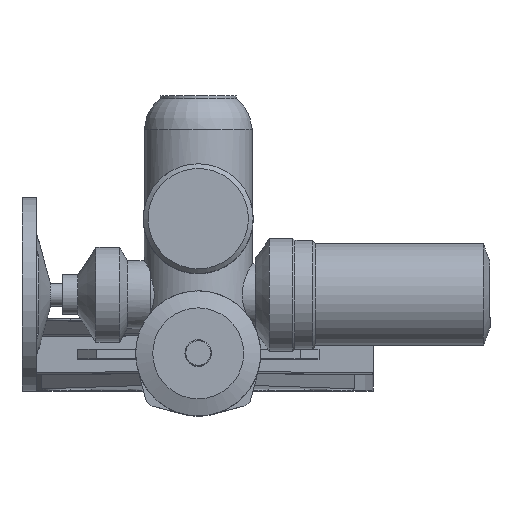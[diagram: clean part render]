
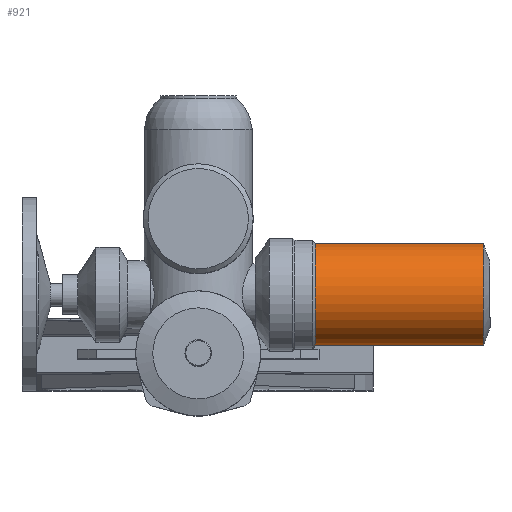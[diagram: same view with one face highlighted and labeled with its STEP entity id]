
A CAD part, top view. The second image highlights one B-rep face of the part: STEP entity #921.
In plain terms, the highlighted cylindrical face has radius 54 mm (diameter 108 mm), a full revolution.
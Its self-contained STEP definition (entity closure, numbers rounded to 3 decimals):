
#921=ADVANCED_FACE('',(#3311,#3313),#3315,.T.);
#3311=FACE_OUTER_BOUND('',#3312,.T.);
#3312=EDGE_LOOP('',(#5087));
#3313=FACE_OUTER_BOUND('',#3314,.T.);
#3314=EDGE_LOOP('',(#5088));
#3315=CYLINDRICAL_SURFACE('',#3316,54.);
#3316=AXIS2_PLACEMENT_3D('',#3317,#3318,#3319);
#3317=CARTESIAN_POINT('',(301.085,62.,913.));
#3318=DIRECTION('',(-1.,0.,0.));
#3319=DIRECTION('',(0.,0.,1.));
#5087=ORIENTED_EDGE('',*,*,#6280,.T.);
#5088=ORIENTED_EDGE('',*,*,#6191,.F.);
#6191=EDGE_CURVE('',#7012,#7012,#7013,.T.);
#6280=EDGE_CURVE('',#7166,#7166,#7167,.T.);
#7012=VERTEX_POINT('',#9689);
#7013=CIRCLE('',#9690,54.);
#7166=VERTEX_POINT('',#10039);
#7167=CIRCLE('',#10040,54.);
#9689=CARTESIAN_POINT('',(123.505,62.,967.));
#9690=AXIS2_PLACEMENT_3D('',#9691,#9692,#9693);
#9691=CARTESIAN_POINT('',(123.505,62.,913.));
#9692=DIRECTION('',(-1.,0.,0.));
#9693=DIRECTION('',(0.,0.,1.));
#10039=CARTESIAN_POINT('',(301.085,62.,967.));
#10040=AXIS2_PLACEMENT_3D('',#10041,#10042,#10043);
#10041=CARTESIAN_POINT('',(301.085,62.,913.));
#10042=DIRECTION('',(-1.,0.,0.));
#10043=DIRECTION('',(0.,0.,1.));
